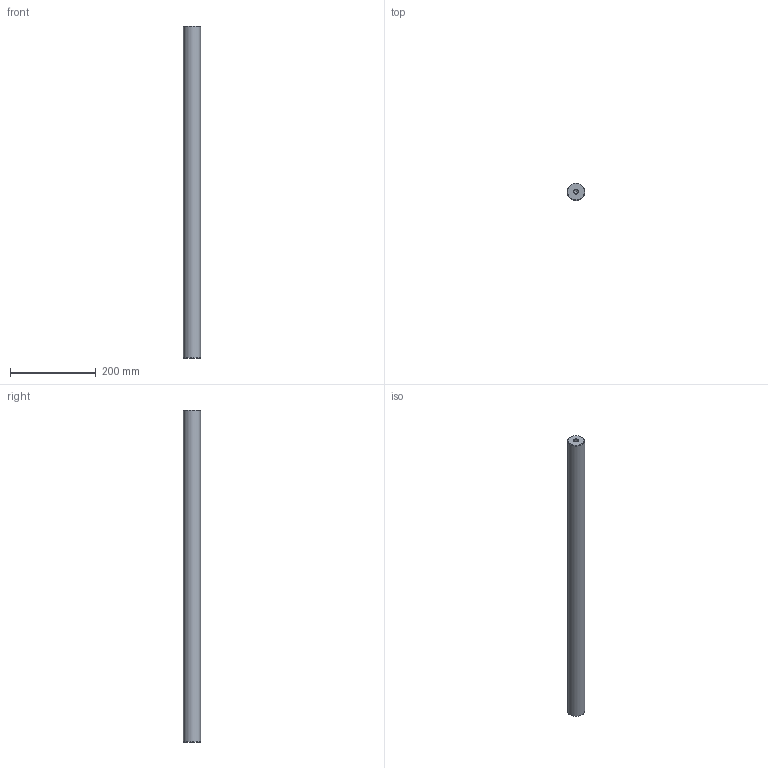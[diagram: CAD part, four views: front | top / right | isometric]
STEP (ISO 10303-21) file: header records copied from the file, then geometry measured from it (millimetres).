
FILE_DESCRIPTION( ( 'STEP AP214' ), '1' );
FILE_NAME( 'U:/Etudes/Top Solid/BIBLIO 3D AVM/STEP/G_GUIDAGE/Accessoires/Colonnes/Ø40x773.step', '2007-06-18T12:31:43', ( ' ' ), ( ' ' ), 'XStep 1.0', ' ', ' ' );
FILE_SCHEMA( ( 'automotive_design' ) );
Length unit declared in the file: metre
Products named in the file (1): 1
Bounding box: 40 x 40 x 773 mm (x, y, z)
Volume: 966021.5 mm3; surface area: 101533 mm2
Topology: 1 solids, 1 shells, 13 faces, 27 edges, 16 vertices
Faces by surface type: cone 6, cylinder 5, plane 2
Full cylindrical faces by diameter (mm): 10.106 x4, 40 x1
Entity records: 382 total; most frequent: DIRECTION 52, CARTESIAN_POINT 40, AXIS2_PLACEMENT_3D 26, EDGE_LOOP 24, ORIENTED_EDGE 24, FACE_OUTER_BOUND 18, VERTEX_POINT 14, STYLED_ITEM 13
